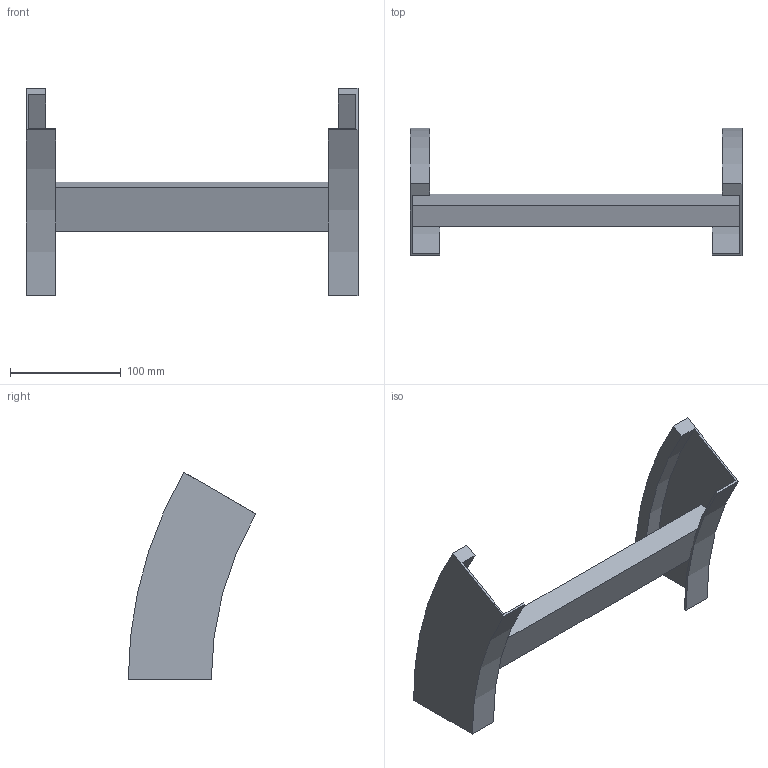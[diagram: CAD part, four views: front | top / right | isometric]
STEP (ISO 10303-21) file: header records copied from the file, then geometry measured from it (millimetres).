
FILE_DESCRIPTION (( 'STEP AP214' ), '1' );
FILE_NAME ('B2_35B3C300.step', '2025-02-21T14:50:23', ( '' ), ( '' ), 'SwSTEP 2.0', 'SolidWorks 2023', '' );
FILE_SCHEMA (( 'AUTOMOTIVE_DESIGN' ));
Length unit declared in the file: millimetre
Products named in the file (3): TRAVERSINO_300; B2_LONGH.DISCESA_30°_H75_R300; B2_35B3C300
Assembly tree (3 placements, depth 2):
  B2_35B3C300
    B2_LONGH.DISCESA_30°_H75_R300  x2
    TRAVERSINO_300
Bounding box: 300 x 115.19 x 187.5 mm (x, y, z)
Volume: 382726.6 mm3; surface area: 121557.7 mm2
Topology: 3 solids, 3 shells, 26 faces, 60 edges, 40 vertices
Faces by surface type: plane 18, cylinder 8
Entity records: 544 total; most frequent: DIRECTION 88, CARTESIAN_POINT 82, ORIENTED_EDGE 72, EDGE_CURVE 36, AXIS2_PLACEMENT_3D 30, VECTOR 28, LINE 28, VERTEX_POINT 24
